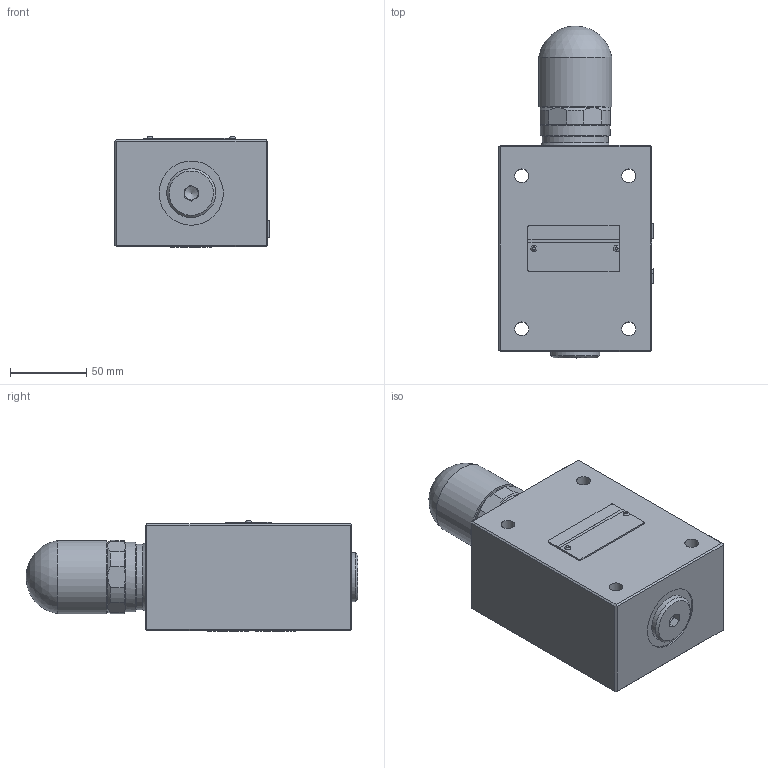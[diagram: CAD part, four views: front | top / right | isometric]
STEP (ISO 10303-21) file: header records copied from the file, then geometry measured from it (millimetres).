
FILE_DESCRIPTION(/* description */ (''),/* implementation_level */ '2;1');
FILE_NAME(/* name */ 'DBDS20P-1XJ直动型板式溢流阀.prt.stp',/* time_stamp */ '2022-03-30T20:14:52+08:00',/* author */ (''),/* organization */ (''),/* preprocessor_version */ 'ST-DEVELOPER v16.7',/* originating_system */ 'SIEMENS PLM Software NX 12.0',/* authorisation */ '');
FILE_SCHEMA (('AUTOMOTIVE_DESIGN { 1 0 10303 214 3 1 1 1 }'));
Length unit declared in the file: millimetre
Products named in the file (1): DBDS20P-1XJ直动型板式溢流阀
Bounding box: 101 x 217.04 x 72.5 mm (x, y, z)
Volume: 1060061.9 mm3; surface area: 148474.1 mm2
Topology: 28 solids, 29 shells, 679 faces, 1557 edges, 958 vertices
Faces by surface type: plane 317, cylinder 154, torus 96, cone 79, bspline 22, extrusion 8, sphere 3
Full cylindrical faces by diameter (mm): 1 x1, 1.5 x2, 1.8 x2, 1.9 x4, 3.1 x2, 4 x1, 5.5 x3, 6 x5, 7.8 x1, 9 x5, 9.4 x5, 9.7 x1, 10 x13, 10.2 x1, 10.976 x1, 11.7 x2, 17 x3, 19.7 x1, 20 x3, 22.7 x1, 24 x1, 24.3 x5, 26 x1, 27.4 x2, 28 x1, 28.5 x1, 30 x1, 31 x1, 32 x1, 33.8 x1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
Entity records: 36144 total; most frequent: CARTESIAN_POINT 22751, DIRECTION 2596, ORIENTED_EDGE 2450, EDGE_CURVE 1225, AXIS2_PLACEMENT_3D 1084, EDGE_LOOP 928, VERTEX_POINT 875, ADVANCED_FACE 661
